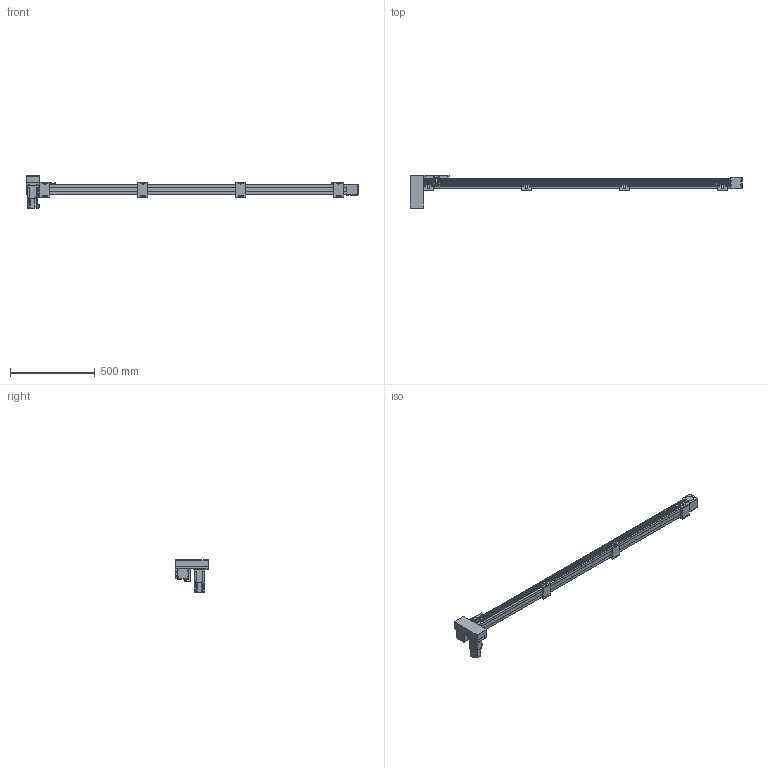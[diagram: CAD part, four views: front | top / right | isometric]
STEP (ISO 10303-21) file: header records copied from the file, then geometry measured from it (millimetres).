
FILE_DESCRIPTION(/* description */ ('STEP AP214'),/* implementation_level */ '2;1');
FILE_NAME(/* name */ 'SK60-P13-S1650-RD-T40-C1-N(0)',/* time_stamp */ '2023-04-06T04:56:14+02:00',/* author */ ('License CC BY-ND 4.0'),/* organization */ ('CADENAS'),/* preprocessor_version */ 'ST-DEVELOPER v19.3',/* originating_system */ 'PARTsolutions',/* authorisation */ ' ');
FILE_SCHEMA (('AUTOMOTIVE_DESIGN {1 0 10303 214 3 1 1}'));
Length unit declared in the file: millimetre
Products named in the file (10): SK60-P13-S1650-RD-T40-C1-N(0); PSC140-sensor; SK60-S450_seat; SK60-S450-BL-C1_slider; SK60_body3; SK60_body6; SK60-BL_body2; T40-p1; SK60-RD_fb; SK60-S1650-RD-C1_body
Assembly tree (18 placements, depth 2):
  SK60-P13-S1650-RD-T40-C1-N(0)
    PSC140-sensor  x3
    SK60-S450_seat  x4
    SK60-S450-BL-C1_slider
    SK60_body3  x3
    SK60_body6  x2
    SK60-BL_body2  x2
    T40-p1
    SK60-RD_fb
    SK60-S1650-RD-C1_body
Bounding box: 1955.5 x 199 x 189.7 mm (x, y, z)
Volume: 7854772.5 mm3; surface area: 954157.4 mm2
Topology: 18 solids, 18 shells, 898 faces, 2244 edges, 1477 vertices
Faces by surface type: plane 572, cylinder 294, cone 30, torus 2
Full cylindrical faces by diameter (mm): 2.8 x3, 3.3 x4, 4 x2, 4.5 x30, 4.6 x3, 4.917 x24, 5 x6, 5.478 x4, 5.5 x27, 6.5 x8, 7 x2, 8 x4, 8.5 x4, 9.988 x4, 10 x16, 14 x1, 47 x3, 50 x2
Entity records: 18671 total; most frequent: DIRECTION 3188, CARTESIAN_POINT 3152, ORIENTED_EDGE 2940, EDGE_CURVE 1470, AXIS2_PLACEMENT_3D 1070, LINE 1048, VECTOR 1048, VERTEX_POINT 1034
